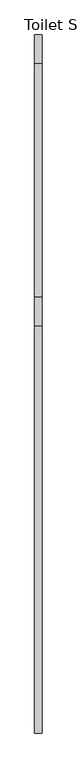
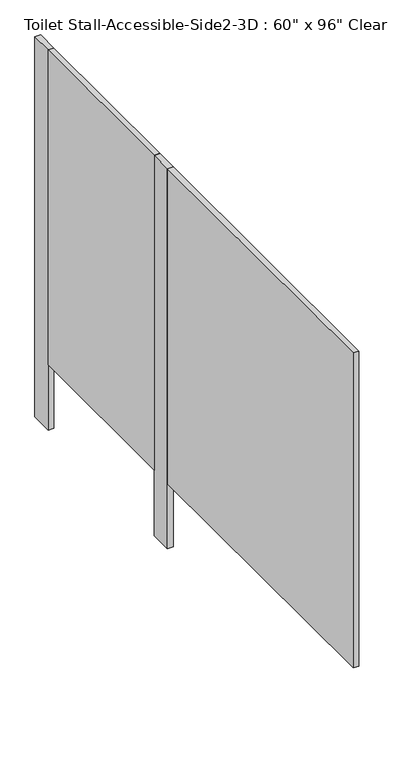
"""IFC4 building model written with IfcOpenShell, lengths in millimetres: proxy geometry."""

from ifc_helpers import new_model, si_unit, frame, origin, origin_with_axes, place, context, project, spatial, polyline, outline, extrude, source, transform, mapped, element, save


def proxy_e74a4aad(model_context):
    return source(origin(), model_context, "Body", "SweptSolid", [
        extrude(outline(polyline([(-661.8968462, 2428.875), (-661.8968462, 1616.075), (-687.2968462, 1616.075), (-687.2968462, 2428.875), (-661.8968462, 2428.875)])), frame((0.0, 0.0, 304.8), z_axis=(0.0, 0.0, 1.0), x_axis=(1.0, 0.0, 0.0)), (0.0, 0.0, 1.0), 1473.2),
        extrude(outline(polyline([(-661.8968462, 2530.475), (-661.8968462, 2428.875), (-687.2968462, 2428.875), (-687.2968462, 2530.475), (-661.8968462, 2530.475)])), origin_with_axes(), (0.0, 0.0, 1.0), 1778.0),
        extrude(outline(polyline([(-661.8968462, 1616.075), (-661.8968462, 1514.475), (-687.2968462, 1514.475), (-687.2968462, 1616.075), (-661.8968462, 1616.075)])), origin_with_axes(), (0.0, 0.0, 1.0), 1778.0),
        extrude(outline(polyline([(-687.2968462, 1514.475), (-661.8968462, 1514.475), (-661.8968462, 92.075), (-687.2968462, 92.075), (-687.2968462, 1514.475)])), frame((0.0, 0.0, 304.8), z_axis=(0.0, 0.0, 1.0), x_axis=(1.0, 0.0, 0.0)), (0.0, 0.0, 1.0), 1473.2),
    ])


if __name__ == "__main__":
    model = new_model("IFC4")
    model_context = context("Model", 3, world=origin())
    ifc_project = project(units=[si_unit("LENGTHUNIT", "METRE", prefix="MILLI")], contexts=[model_context])
    site = spatial("IfcSite", under=ifc_project)
    building = spatial("IfcBuilding", under=site)
    placement = place(None, origin())
    proxy_shape = proxy_e74a4aad(model_context)
    element("IfcBuildingElementProxy", 1, Name="Toilet Stall-Accessible-Side2-3D : 60\" x 96\" Clear", ObjectType="Toilet Stall-Accessible-Side2-3D : 60\" x 96\" Clear", at=placement, inside=building, context=model_context, shape_type="MappedRepresentation", body=[
        mapped(proxy_shape, transform((0.0, 0.0, 0.0), x_axis=(1.0, 0.0, 0.0), y_axis=(0.0, 1.0, 0.0), z_axis=(0.0, 0.0, 1.0))),
    ])
    save(model, "model.ifc")
